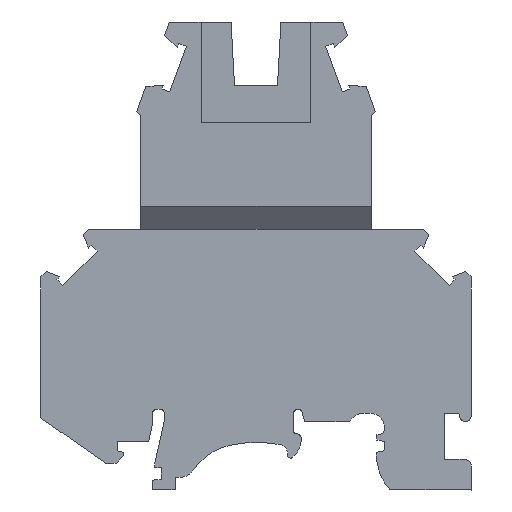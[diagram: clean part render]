
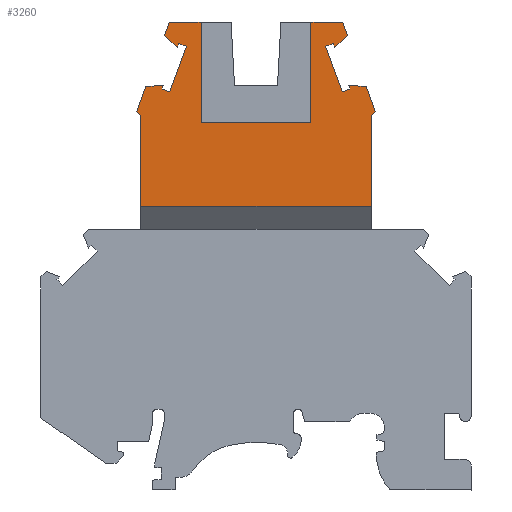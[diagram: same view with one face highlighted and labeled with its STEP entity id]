
A CAD part, left-side view. The second image highlights one B-rep face of the part: STEP entity #3260.
In plain terms, the highlighted planar face has unit normal (-1, 0, 0) as drawn and (0, 0, -1) by its records, which use the part's own axes.
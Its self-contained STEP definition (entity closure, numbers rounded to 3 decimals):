
#990=CARTESIAN_POINT('',(-205.849,165.951,-7.75));
#1000=DIRECTION('',(-0.,-0.,-1.));
#1010=DIRECTION('',(0.,-1.,0.));
#1020=AXIS2_PLACEMENT_3D('',#990,#1000,#1010);
#1030=PLANE('',#1020);
#1040=CARTESIAN_POINT('',(-376.418,0.,-7.75));
#1050=DIRECTION('',(-0.686,-0.727,0.));
#1060=VECTOR('',#1050,1.);
#1070=LINE('',#1040,#1060);
#1080=CARTESIAN_POINT('',(-205.32,181.247,-7.75));
#1090=VERTEX_POINT('',#1080);
#1100=CARTESIAN_POINT('',(-205.849,180.687,-7.75));
#1110=VERTEX_POINT('',#1100);
#1120=EDGE_CURVE('',#1090,#1110,#1070,.T.);
#1130=ORIENTED_EDGE('',*,*,#1120,.T.);
#1140=CARTESIAN_POINT('',(-139.352,0.,-7.75));
#1150=DIRECTION('',(-0.342,0.94,0.));
#1160=VECTOR('',#1150,1.);
#1170=LINE('',#1140,#1160);
#1180=CARTESIAN_POINT('',(-206.508,184.509,-7.75));
#1190=VERTEX_POINT('',#1180);
#1200=EDGE_CURVE('',#1090,#1190,#1170,.T.);
#1210=ORIENTED_EDGE('',*,*,#1200,.F.);
#1220=CARTESIAN_POINT('',(0.,171.071,-7.75));
#1230=DIRECTION('',(0.998,-0.065,0.));
#1240=VECTOR('',#1230,1.);
#1250=LINE('',#1220,#1240);
#1260=CARTESIAN_POINT('',(-208.802,184.659,-7.75));
#1270=VERTEX_POINT('',#1260);
#1280=EDGE_CURVE('',#1270,#1190,#1250,.T.);
#1290=ORIENTED_EDGE('',*,*,#1280,.T.);
#1300=CARTESIAN_POINT('',(-141.592,0.,-7.75));
#1310=DIRECTION('',(-0.342,0.94,0.));
#1320=VECTOR('',#1310,1.);
#1330=LINE('',#1300,#1320);
#1340=CARTESIAN_POINT('',(-208.622,184.163,-7.75));
#1350=VERTEX_POINT('',#1340);
#1360=EDGE_CURVE('',#1350,#1270,#1330,.T.);
#1370=ORIENTED_EDGE('',*,*,#1360,.T.);
#1380=CARTESIAN_POINT('',(0.,260.095,-7.75));
#1390=DIRECTION('',(0.94,0.342,0.));
#1400=VECTOR('',#1390,1.);
#1410=LINE('',#1380,#1400);
#1420=CARTESIAN_POINT('',(-209.627,183.797,-7.75));
#1430=VERTEX_POINT('',#1420);
#1440=EDGE_CURVE('',#1430,#1350,#1410,.T.);
#1450=ORIENTED_EDGE('',*,*,#1440,.T.);
#1460=CARTESIAN_POINT('',(-142.73,0.,-7.75));
#1470=DIRECTION('',(0.342,-0.94,0.));
#1480=VECTOR('',#1470,1.);
#1490=LINE('',#1460,#1480);
#1500=CARTESIAN_POINT('',(-211.79,189.74,-7.75));
#1510=VERTEX_POINT('',#1500);
#1520=EDGE_CURVE('',#1510,#1430,#1490,.T.);
#1530=ORIENTED_EDGE('',*,*,#1520,.T.);
#1540=CARTESIAN_POINT('',(0.,266.825,-7.75));
#1550=DIRECTION('',(-0.94,-0.342,0.));
#1560=VECTOR('',#1550,1.);
#1570=LINE('',#1540,#1560);
#1580=CARTESIAN_POINT('',(-210.785,190.106,-7.75));
#1590=VERTEX_POINT('',#1580);
#1600=EDGE_CURVE('',#1590,#1510,#1570,.T.);
#1610=ORIENTED_EDGE('',*,*,#1600,.T.);
#1620=CARTESIAN_POINT('',(-141.592,0.,-7.75));
#1630=DIRECTION('',(-0.342,0.94,0.));
#1640=VECTOR('',#1630,1.);
#1650=LINE('',#1620,#1640);
#1660=CARTESIAN_POINT('',(-210.604,189.61,-7.75));
#1670=VERTEX_POINT('',#1660);
#1680=EDGE_CURVE('',#1670,#1590,#1650,.T.);
#1690=ORIENTED_EDGE('',*,*,#1680,.T.);
#1700=CARTESIAN_POINT('',(0.,391.032,-7.75));
#1710=DIRECTION('',(-0.723,-0.691,0.));
#1720=VECTOR('',#1710,1.);
#1730=LINE('',#1700,#1720);
#1740=CARTESIAN_POINT('',(-208.943,191.199,-7.75));
#1750=VERTEX_POINT('',#1740);
#1760=EDGE_CURVE('',#1750,#1670,#1730,.T.);
#1770=ORIENTED_EDGE('',*,*,#1760,.T.);
#1780=CARTESIAN_POINT('',(-139.352,0.,-7.75));
#1790=DIRECTION('',(0.342,-0.94,0.));
#1800=VECTOR('',#1790,1.);
#1810=LINE('',#1780,#1800);
#1820=CARTESIAN_POINT('',(-209.562,192.901,-7.75));
#1830=VERTEX_POINT('',#1820);
#1840=EDGE_CURVE('',#1830,#1750,#1810,.T.);
#1850=ORIENTED_EDGE('',*,*,#1840,.T.);
#1860=CARTESIAN_POINT('',(0.,192.901,-7.75));
#1870=DIRECTION('',(-1.,0.,0.));
#1880=VECTOR('',#1870,1.);
#1890=LINE('',#1860,#1880);
#1900=CARTESIAN_POINT('',(-213.699,192.901,-7.75));
#1910=VERTEX_POINT('',#1900);
#1920=EDGE_CURVE('',#1830,#1910,#1890,.T.);
#1930=ORIENTED_EDGE('',*,*,#1920,.F.);
#1940=CARTESIAN_POINT('',(-213.699,0.,-7.75));
#1950=DIRECTION('',(0.,-1.,0.));
#1960=VECTOR('',#1950,1.);
#1970=LINE('',#1940,#1960);
#1980=CARTESIAN_POINT('',(-213.699,179.801,-7.75));
#1990=VERTEX_POINT('',#1980);
#2000=EDGE_CURVE('',#1910,#1990,#1970,.T.);
#2010=ORIENTED_EDGE('',*,*,#2000,.F.);
#2020=CARTESIAN_POINT('',(0.,179.801,-7.75));
#2030=DIRECTION('',(-1.,0.,0.));
#2040=VECTOR('',#2030,1.);
#2050=LINE('',#2020,#2040);
#2060=CARTESIAN_POINT('',(-227.999,179.801,-7.75));
#2070=VERTEX_POINT('',#2060);
#2080=EDGE_CURVE('',#1990,#2070,#2050,.T.);
#2090=ORIENTED_EDGE('',*,*,#2080,.F.);
#2100=CARTESIAN_POINT('',(-227.999,0.,-7.75));
#2110=DIRECTION('',(0.,1.,0.));
#2120=VECTOR('',#2110,1.);
#2130=LINE('',#2100,#2120);
#2140=CARTESIAN_POINT('',(-227.999,192.901,-7.75));
#2150=VERTEX_POINT('',#2140);
#2160=EDGE_CURVE('',#2070,#2150,#2130,.T.);
#2170=ORIENTED_EDGE('',*,*,#2160,.F.);
#2180=CARTESIAN_POINT('',(-232.135,192.901,-7.75));
#2190=VERTEX_POINT('',#2180);
#2200=EDGE_CURVE('',#2150,#2190,#1890,.T.);
#2210=ORIENTED_EDGE('',*,*,#2200,.F.);
#2220=CARTESIAN_POINT('',(-302.346,0.,-7.75));
#2230=DIRECTION('',(0.342,0.94,0.));
#2240=VECTOR('',#2230,1.);
#2250=LINE('',#2220,#2240);
#2260=CARTESIAN_POINT('',(-232.755,191.199,-7.75));
#2270=VERTEX_POINT('',#2260);
#2280=EDGE_CURVE('',#2270,#2190,#2250,.T.);
#2290=ORIENTED_EDGE('',*,*,#2280,.T.);
#2300=CARTESIAN_POINT('',(0.,-31.407,-7.75));
#2310=DIRECTION('',(-0.723,0.691,0.));
#2320=VECTOR('',#2310,1.);
#2330=LINE('',#2300,#2320);
#2340=CARTESIAN_POINT('',(-231.093,189.61,-7.75));
#2350=VERTEX_POINT('',#2340);
#2360=EDGE_CURVE('',#2350,#2270,#2330,.T.);
#2370=ORIENTED_EDGE('',*,*,#2360,.T.);
#2380=CARTESIAN_POINT('',(-300.105,0.,-7.75));
#2390=DIRECTION('',(-0.342,-0.94,0.));
#2400=VECTOR('',#2390,1.);
#2410=LINE('',#2380,#2400);
#2420=CARTESIAN_POINT('',(-230.912,190.106,-7.75));
#2430=VERTEX_POINT('',#2420);
#2440=EDGE_CURVE('',#2430,#2350,#2410,.T.);
#2450=ORIENTED_EDGE('',*,*,#2440,.T.);
#2460=CARTESIAN_POINT('',(0.,106.061,-7.75));
#2470=DIRECTION('',(-0.94,0.342,0.));
#2480=VECTOR('',#2470,1.);
#2490=LINE('',#2460,#2480);
#2500=CARTESIAN_POINT('',(-229.907,189.74,-7.75));
#2510=VERTEX_POINT('',#2500);
#2520=EDGE_CURVE('',#2510,#2430,#2490,.T.);
#2530=ORIENTED_EDGE('',*,*,#2520,.T.);
#2540=CARTESIAN_POINT('',(-298.967,0.,-7.75));
#2550=DIRECTION('',(0.342,0.94,0.));
#2560=VECTOR('',#2550,1.);
#2570=LINE('',#2540,#2560);
#2580=CARTESIAN_POINT('',(-232.07,183.797,-7.75));
#2590=VERTEX_POINT('',#2580);
#2600=EDGE_CURVE('',#2590,#2510,#2570,.T.);
#2610=ORIENTED_EDGE('',*,*,#2600,.T.);
#2620=CARTESIAN_POINT('',(0.,99.33,-7.75));
#2630=DIRECTION('',(0.94,-0.342,0.));
#2640=VECTOR('',#2630,1.);
#2650=LINE('',#2620,#2640);
#2660=CARTESIAN_POINT('',(-233.076,184.163,-7.75));
#2670=VERTEX_POINT('',#2660);
#2680=EDGE_CURVE('',#2670,#2590,#2650,.T.);
#2690=ORIENTED_EDGE('',*,*,#2680,.T.);
#2700=CARTESIAN_POINT('',(-300.105,0.,-7.75));
#2710=DIRECTION('',(-0.342,-0.94,0.));
#2720=VECTOR('',#2710,1.);
#2730=LINE('',#2700,#2720);
#2740=CARTESIAN_POINT('',(-232.895,184.659,-7.75));
#2750=VERTEX_POINT('',#2740);
#2760=EDGE_CURVE('',#2750,#2670,#2730,.T.);
#2770=ORIENTED_EDGE('',*,*,#2760,.T.);
#2780=CARTESIAN_POINT('',(0.,199.814,-7.75));
#2790=DIRECTION('',(0.998,0.065,0.));
#2800=VECTOR('',#2790,1.);
#2810=LINE('',#2780,#2800);
#2820=CARTESIAN_POINT('',(-235.19,184.509,-7.75));
#2830=VERTEX_POINT('',#2820);
#2840=EDGE_CURVE('',#2830,#2750,#2810,.T.);
#2850=ORIENTED_EDGE('',*,*,#2840,.T.);
#2860=CARTESIAN_POINT('',(-302.346,0.,-7.75));
#2870=DIRECTION('',(0.342,0.94,0.));
#2880=VECTOR('',#2870,1.);
#2890=LINE('',#2860,#2880);
#2900=CARTESIAN_POINT('',(-236.377,181.247,-7.75));
#2910=VERTEX_POINT('',#2900);
#2920=EDGE_CURVE('',#2910,#2830,#2890,.T.);
#2930=ORIENTED_EDGE('',*,*,#2920,.T.);
#2940=CARTESIAN_POINT('',(-65.279,0.,-7.75));
#2950=DIRECTION('',(0.686,-0.727,0.));
#2960=VECTOR('',#2950,1.);
#2970=LINE('',#2940,#2960);
#2980=CARTESIAN_POINT('',(-235.849,180.687,-7.75));
#2990=VERTEX_POINT('',#2980);
#3000=EDGE_CURVE('',#2910,#2990,#2970,.T.);
#3010=ORIENTED_EDGE('',*,*,#3000,.F.);
#3020=CARTESIAN_POINT('',(-235.849,0.,-7.75));
#3030=DIRECTION('',(0.,1.,0.));
#3040=VECTOR('',#3030,1.);
#3050=LINE('',#3020,#3040);
#3060=CARTESIAN_POINT('',(-235.849,168.951,-7.75));
#3070=VERTEX_POINT('',#3060);
#3080=EDGE_CURVE('',#3070,#2990,#3050,.T.);
#3090=ORIENTED_EDGE('',*,*,#3080,.T.);
#3100=CARTESIAN_POINT('',(0.,168.951,-7.75));
#3110=DIRECTION('',(-1.,0.,0.));
#3120=VECTOR('',#3110,1.);
#3130=LINE('',#3100,#3120);
#3140=CARTESIAN_POINT('',(-205.849,168.951,-7.75));
#3150=VERTEX_POINT('',#3140);
#3160=EDGE_CURVE('',#3150,#3070,#3130,.T.);
#3170=ORIENTED_EDGE('',*,*,#3160,.T.);
#3180=CARTESIAN_POINT('',(-205.849,0.,-7.75));
#3190=DIRECTION('',(0.,-1.,0.));
#3200=VECTOR('',#3190,1.);
#3210=LINE('',#3180,#3200);
#3220=EDGE_CURVE('',#1110,#3150,#3210,.T.);
#3230=ORIENTED_EDGE('',*,*,#3220,.T.);
#3240=EDGE_LOOP('',(#3230,#3170,#3090,#3010,#2930,#2850,#2770,#2690,
#2610,#2530,#2450,#2370,#2290,#2210,#2170,#2090,#2010,#1930,#1850,#1770,
#1690,#1610,#1530,#1450,#1370,#1290,#1210,#1130));
#3250=FACE_OUTER_BOUND('',#3240,.T.);
#3260=ADVANCED_FACE('',(#3250),#1030,.T.);
